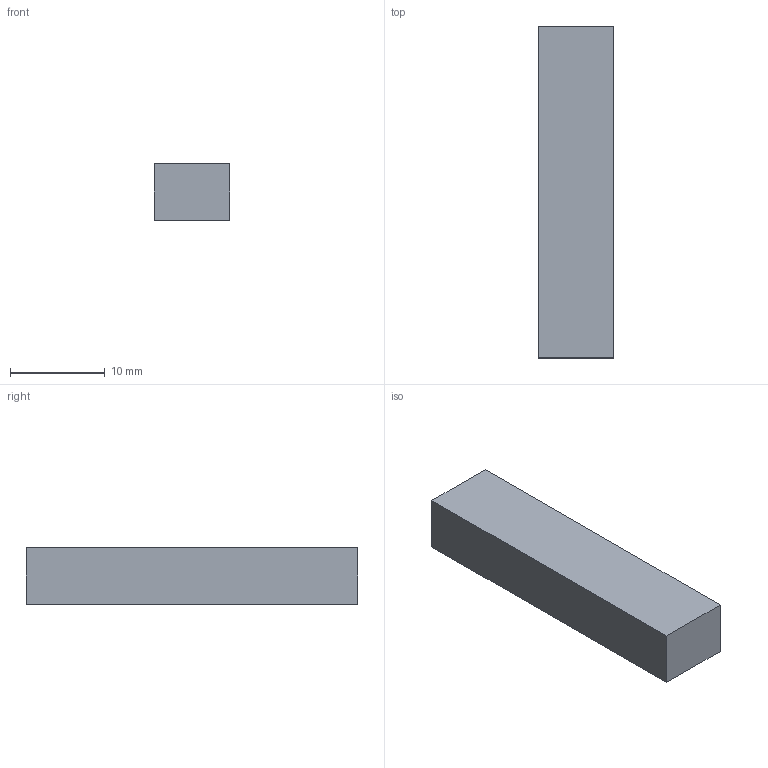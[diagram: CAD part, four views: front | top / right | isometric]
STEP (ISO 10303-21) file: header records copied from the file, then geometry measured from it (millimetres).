
FILE_DESCRIPTION(('Open CASCADE Model'),'2;1');
FILE_NAME('Open CASCADE Shape Model','2026-10-04T02:31:40',('Author'),( 'Open CASCADE'),'Open CASCADE STEP processor 8.0','Open CASCADE 8.0' ,'Unknown');
FILE_SCHEMA(('AUTOMOTIVE_DESIGN { 1 0 10303 214 1 1 1 1 }'));
Length unit declared in the file: millimetre
Products named in the file (1): Open CASCADE STEP translator 8.0 220
Bounding box: 8 x 35 x 6 mm (x, y, z)
Volume: 1680 mm3; surface area: 1076 mm2
Topology: 1 solids, 1 shells, 6 faces, 12 edges, 8 vertices
Faces by surface type: plane 6
Entity records: 322 total; most frequent: CARTESIAN_POINT 51, DIRECTION 50, LINE 36, VECTOR 36, ORIENTED_EDGE 24, PCURVE 24, DEFINITIONAL_REPRESENTATION 24, EDGE_CURVE 12
